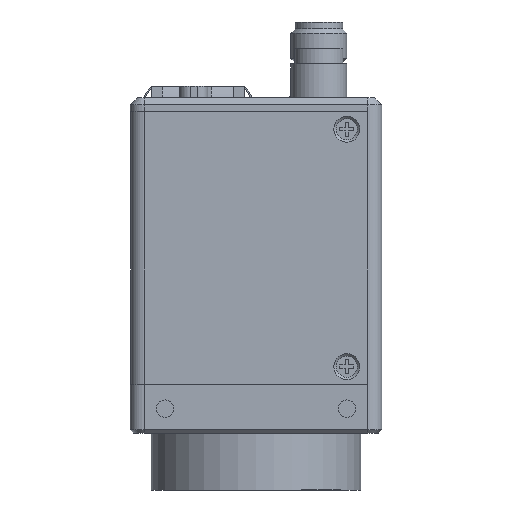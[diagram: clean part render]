
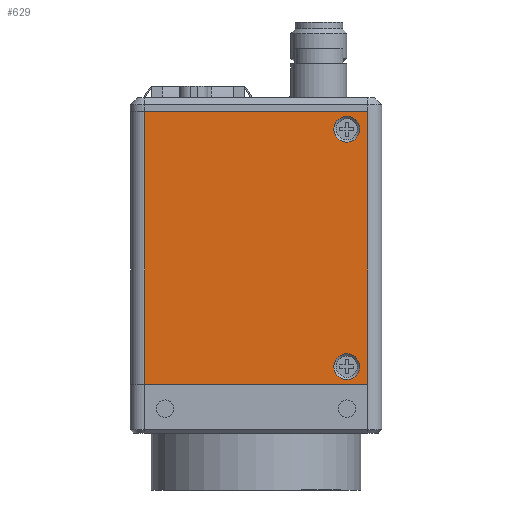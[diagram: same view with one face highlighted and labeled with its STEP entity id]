
A CAD part, left-side view. The second image highlights one B-rep face of the part: STEP entity #629.
In plain terms, the highlighted planar face has unit normal (-1, 0, 0).
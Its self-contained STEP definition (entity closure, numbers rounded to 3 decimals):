
#629 = ADVANCED_FACE( '', ( #1437, #1438, #1439 ), #1440, .F. );
#1437 = FACE_BOUND( '', #2423, .T. );
#1438 = FACE_BOUND( '', #2424, .T. );
#1439 = FACE_OUTER_BOUND( '', #2425, .T. );
#1440 = PLANE( '', #2426 );
#2423 = EDGE_LOOP( '', ( #4322 ) );
#2424 = EDGE_LOOP( '', ( #4323 ) );
#2425 = EDGE_LOOP( '', ( #4324, #4325, #4326, #4327 ) );
#2426 = AXIS2_PLACEMENT_3D( '', #4328, #4329, #4330 );
#4322 = ORIENTED_EDGE( '', *, *, #6485, .T. );
#4323 = ORIENTED_EDGE( '', *, *, #6449, .T. );
#4324 = ORIENTED_EDGE( '', *, *, #6486, .T. );
#4325 = ORIENTED_EDGE( '', *, *, #5996, .T. );
#4326 = ORIENTED_EDGE( '', *, *, #6404, .T. );
#4327 = ORIENTED_EDGE( '', *, *, #6487, .T. );
#4328 = CARTESIAN_POINT( '', ( -17.9, 16.945, -4.2 ) );
#4329 = DIRECTION( '', ( 1., 0., 0. ) );
#4330 = DIRECTION( '', ( 0., 1., 0. ) );
#5996 = EDGE_CURVE( '', #7726, #7727, #7728, .T. );
#6404 = EDGE_CURVE( '', #7727, #8368, #8370, .T. );
#6449 = EDGE_CURVE( '', #8426, #8426, #8427, .T. );
#6485 = EDGE_CURVE( '', #8478, #8478, #8479, .T. );
#6486 = EDGE_CURVE( '', #8480, #7726, #8481, .T. );
#6487 = EDGE_CURVE( '', #8368, #8480, #8482, .T. );
#7726 = VERTEX_POINT( '', #9984 );
#7727 = VERTEX_POINT( '', #9985 );
#7728 = LINE( '', #9986, #9987 );
#8368 = VERTEX_POINT( '', #10867 );
#8370 = LINE( '', #10870, #10871 );
#8426 = VERTEX_POINT( '', #10952 );
#8427 = CIRCLE( '', #10953, 1.85 );
#8478 = VERTEX_POINT( '', #11023 );
#8479 = CIRCLE( '', #11024, 1.85 );
#8480 = VERTEX_POINT( '', #11025 );
#8481 = LINE( '', #11026, #11027 );
#8482 = LINE( '', #11028, #11029 );
#9984 = CARTESIAN_POINT( '', ( -17.9, 15.9, -4.2 ) );
#9985 = CARTESIAN_POINT( '', ( -17.9, -16., -4.2 ) );
#9986 = CARTESIAN_POINT( '', ( -17.9, 16.945, -4.2 ) );
#9987 = VECTOR( '', #11932, 1000. );
#10867 = CARTESIAN_POINT( '', ( -17.9, -16., 34.8 ) );
#10870 = CARTESIAN_POINT( '', ( -17.9, -16., -4.2 ) );
#10871 = VECTOR( '', #12405, 1000. );
#10952 = CARTESIAN_POINT( '', ( -17.9, -11.15, 32.3 ) );
#10953 = AXIS2_PLACEMENT_3D( '', #12440, #12441, #12442 );
#11023 = CARTESIAN_POINT( '', ( -17.9, -11.15, -1.7 ) );
#11024 = AXIS2_PLACEMENT_3D( '', #12477, #12478, #12479 );
#11025 = CARTESIAN_POINT( '', ( -17.9, 15.9, 34.8 ) );
#11026 = CARTESIAN_POINT( '', ( -17.9, 15.9, 34.8 ) );
#11027 = VECTOR( '', #12480, 1000. );
#11028 = CARTESIAN_POINT( '', ( -17.9, 16.945, 34.8 ) );
#11029 = VECTOR( '', #12481, 1000. );
#11932 = DIRECTION( '', ( 0., -1., 0. ) );
#12405 = DIRECTION( '', ( 0., 0., 1. ) );
#12440 = CARTESIAN_POINT( '', ( -17.9, -13., 32.3 ) );
#12441 = DIRECTION( '', ( 1., 0., 0. ) );
#12442 = DIRECTION( '', ( 0., 1., 0. ) );
#12477 = CARTESIAN_POINT( '', ( -17.9, -13., -1.7 ) );
#12478 = DIRECTION( '', ( 1., 0., 0. ) );
#12479 = DIRECTION( '', ( 0., 1., 0. ) );
#12480 = DIRECTION( '', ( 0., 0., -1. ) );
#12481 = DIRECTION( '', ( 0., 1., 0. ) );
